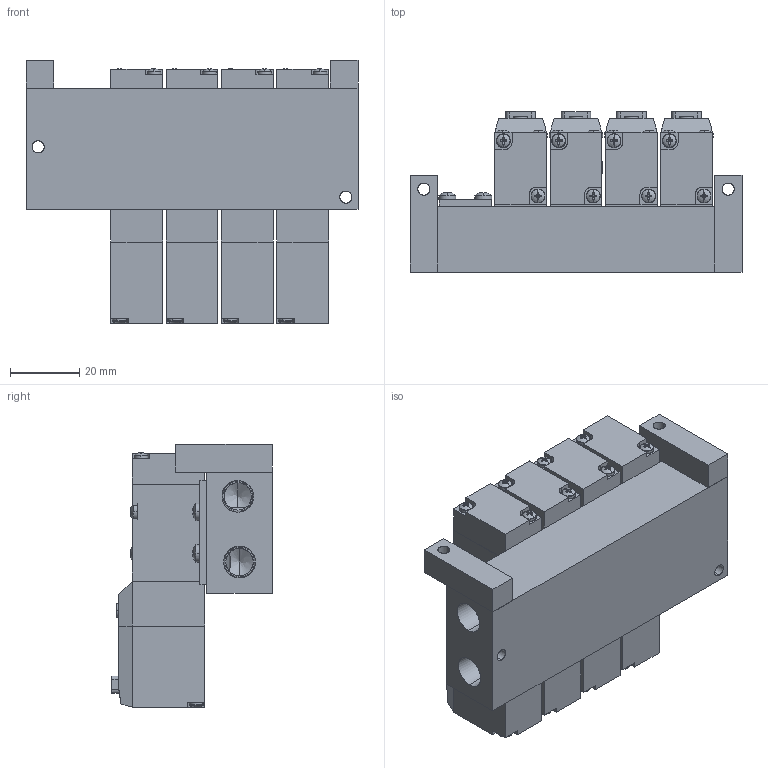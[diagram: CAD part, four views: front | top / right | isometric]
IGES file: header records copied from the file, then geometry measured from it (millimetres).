
Start section: SolidWorks IGES file using analytic representation for surfaces
Global section: file name: D:\Custom\3D繪製\PC\PC5\MFS#-PD5-M5-B-L.IGS,1; native system: 5HSolidWorks 2014; preprocessor: SolidWorks 2014; author: Chieh_Lu; date: 150729.231700; units: millimetre
Bounding box: 96 x 46.5 x 76.07 mm (x, y, z)
Surface area: 60275.8 mm2 (no closed solid volume)
Topology: 0 solids, 0 shells, 2007 faces, 17978 edges, 17876 vertices
Faces by surface type: bspline 1235, revolution 772
